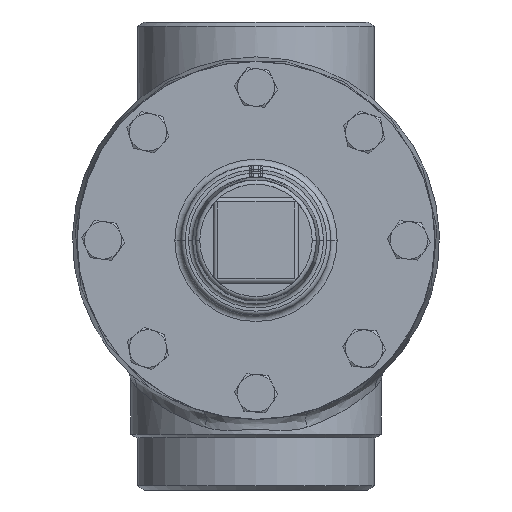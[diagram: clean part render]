
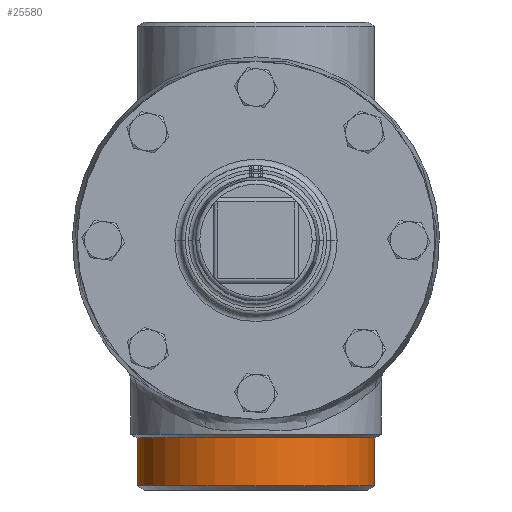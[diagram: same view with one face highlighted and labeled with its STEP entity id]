
A CAD part, front view. The second image highlights one B-rep face of the part: STEP entity #25580.
In plain terms, the highlighted cylindrical face has radius 57.15 mm (diameter 114.3 mm), a partial arc.
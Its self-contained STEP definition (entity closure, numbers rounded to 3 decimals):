
#32968 = CIRCLE ( 'NONE', #32969, 57.15 ) ;
#32969 = AXIS2_PLACEMENT_3D ( 'NONE', #32970, #32971, #32972 ) ;
#32970 = CARTESIAN_POINT ( 'NONE',  ( 0., -73., -95. ) ) ;
#32971 = DIRECTION ( 'NONE',  ( 0., 0., -1. ) ) ;
#32972 = DIRECTION ( 'NONE',  ( -1., 0., 0. ) ) ;
#1374 = VERTEX_POINT ( 'NONE', #30114 ) ;
#2050 = CARTESIAN_POINT ( 'NONE',  ( -57.15, -73., -118.037 ) ) ;
#19937 = CIRCLE ( 'NONE', #19938, 57.15 ) ;
#19938 = AXIS2_PLACEMENT_3D ( 'NONE', #19939, #19940, #19941 ) ;
#19939 = CARTESIAN_POINT ( 'NONE',  ( 0., -73., -118.037 ) ) ;
#19940 = DIRECTION ( 'NONE',  ( 0., 0., 1. ) ) ;
#19941 = DIRECTION ( 'NONE',  ( 1., 0., 0. ) ) ;
#5463 = VERTEX_POINT ( 'NONE', #2050 ) ;
#22839 = ORIENTED_EDGE ( 'NONE', *, *, #28807, .T. ) ;
#23824 = ORIENTED_EDGE ( 'NONE', *, *, #29682, .T. ) ;
#25117 = EDGE_LOOP ( 'NONE', ( #23824, #22839, #28268, #27346 ) ) ;
#8950 = FACE_OUTER_BOUND ( 'NONE', #25117, .T. ) ;
#8951 = CYLINDRICAL_SURFACE ( 'NONE', #8952, 57.15 ) ;
#8952 = AXIS2_PLACEMENT_3D ( 'NONE', #8953, #8954, #8955 ) ;
#8953 = CARTESIAN_POINT ( 'NONE',  ( 0., -73., -95. ) ) ;
#8954 = DIRECTION ( 'NONE',  ( 0., 0., -1. ) ) ;
#8955 = DIRECTION ( 'NONE',  ( -1., 0., 0. ) ) ;
#25580 = ADVANCED_FACE ( 'NONE', ( #8950 ), #8951, .T. ) ;
#26964 = EDGE_CURVE ( 'NONE', #29251, #5463, #11725, .T. ) ;
#27346 = ORIENTED_EDGE ( 'NONE', *, *, #26964, .F. ) ;
#27657 = LINE ( 'NONE', #27658, #27659 ) ;
#27658 = CARTESIAN_POINT ( 'NONE',  ( 57.15, -73., -95. ) ) ;
#27659 = VECTOR ( 'NONE', #27660, 1000. ) ;
#27660 = DIRECTION ( 'NONE',  ( 0., 0., -1. ) ) ;
#27801 = CARTESIAN_POINT ( 'NONE',  ( 57.15, -73., -95. ) ) ;
#27883 = EDGE_CURVE ( 'NONE', #1374, #5463, #19937, .T. ) ;
#11725 = LINE ( 'NONE', #11726, #11727 ) ;
#11726 = CARTESIAN_POINT ( 'NONE',  ( -57.15, -73., -95. ) ) ;
#11727 = VECTOR ( 'NONE', #11728, 1000. ) ;
#11728 = DIRECTION ( 'NONE',  ( 0., 0., -1. ) ) ;
#28268 = ORIENTED_EDGE ( 'NONE', *, *, #27883, .T. ) ;
#28807 = EDGE_CURVE ( 'NONE', #13367, #1374, #27657, .T. ) ;
#29251 = VERTEX_POINT ( 'NONE', #32335 ) ;
#29682 = EDGE_CURVE ( 'NONE', #29251, #13367, #32968, .T. ) ;
#13367 = VERTEX_POINT ( 'NONE', #27801 ) ;
#30114 = CARTESIAN_POINT ( 'NONE',  ( 57.15, -73., -118.037 ) ) ;
#32335 = CARTESIAN_POINT ( 'NONE',  ( -57.15, -73., -95. ) ) ;
